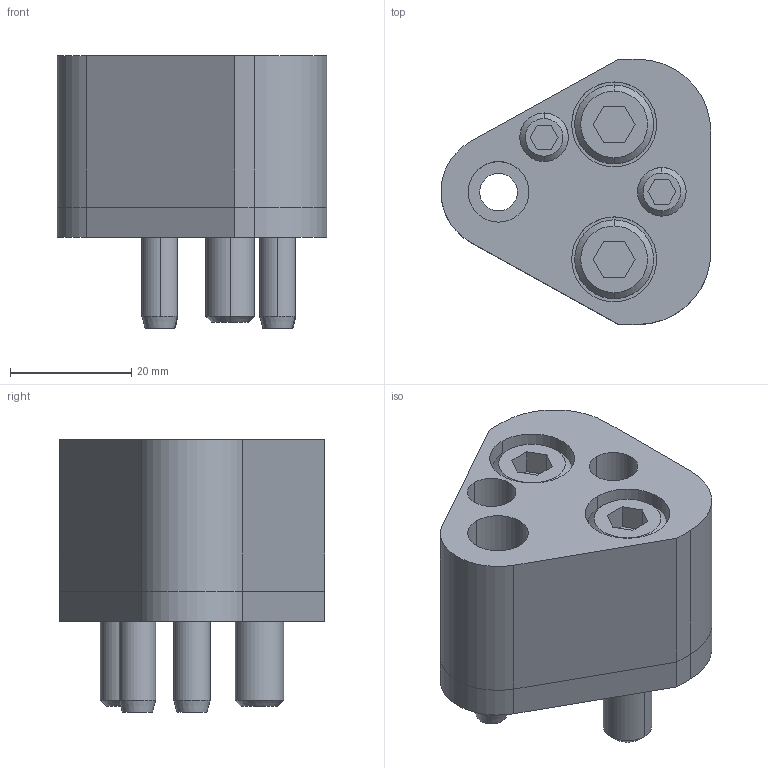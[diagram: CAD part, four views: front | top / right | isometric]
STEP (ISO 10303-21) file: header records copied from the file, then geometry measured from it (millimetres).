
FILE_DESCRIPTION(/* description */ (''),/* implementation_level */ '2;1');
FILE_NAME(/* name */ '3d_25crn-ap10_03127_r00.stp',/* time_stamp */ '2011-01-10T14:17:54+09:00',/* author */ ('MISUMI'),/* organization */ (''),/* preprocessor_version */ 'ST-DEVELOPER v11',/* originating_system */ 'UGS - NX 5.0',/* authorisation */ '');
FILE_SCHEMA (('CONFIG_CONTROL_DESIGN'));
Length unit declared in the file: millimetre
Products named in the file (1): 3d_25crn-ap10_03127_r00
Bounding box: 44.47 x 43.7 x 45 mm (x, y, z)
Volume: 38849.6 mm3; surface area: 18129.6 mm2
Topology: 8 solids, 8 shells, 155 faces, 348 edges, 224 vertices
Faces by surface type: plane 67, cylinder 62, cone 26
Entity records: 4494 total; most frequent: DIRECTION 804, CARTESIAN_POINT 782, ORIENTED_EDGE 696, EDGE_CURVE 348, AXIS2_PLACEMENT_3D 306, VERTEX_POINT 224, LINE 192, VECTOR 192
